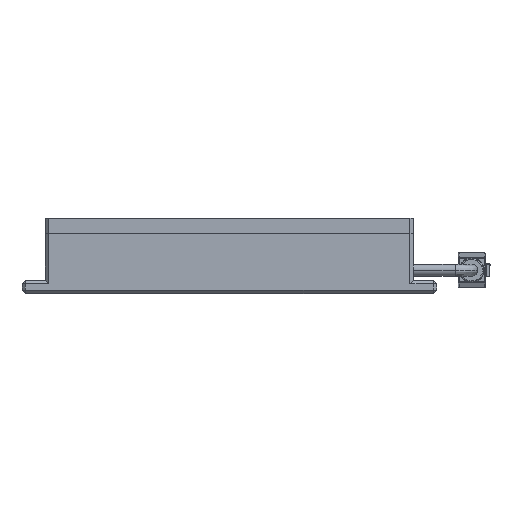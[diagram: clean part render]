
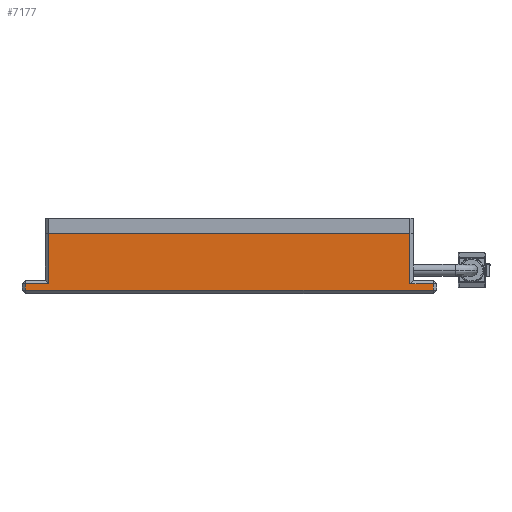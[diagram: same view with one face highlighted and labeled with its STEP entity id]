
A CAD part, left-side view. The second image highlights one B-rep face of the part: STEP entity #7177.
In plain terms, the highlighted planar face has unit normal (-1, 0, 0).
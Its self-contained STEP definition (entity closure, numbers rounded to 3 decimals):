
#174 = DIRECTION ( 'NONE',  ( 0., 0., -1. ) ) ;
#276 = VECTOR ( 'NONE', #174, 1000. ) ;
#362 = LINE ( 'NONE', #6261, #6102 ) ;
#416 = ORIENTED_EDGE ( 'NONE', *, *, #3699, .F. ) ;
#492 = VECTOR ( 'NONE', #5248, 1000. ) ;
#499 = LINE ( 'NONE', #639, #7629 ) ;
#552 = EDGE_CURVE ( 'NONE', #2670, #1925, #6018, .T. ) ;
#608 = VERTEX_POINT ( 'NONE', #2373 ) ;
#639 = CARTESIAN_POINT ( 'NONE',  ( -55., -62., 1. ) ) ;
#714 = CARTESIAN_POINT ( 'NONE',  ( -55., 61., 1. ) ) ;
#1161 = CARTESIAN_POINT ( 'NONE',  ( -55., 61., 0. ) ) ;
#1205 = CARTESIAN_POINT ( 'NONE',  ( -55., -54., 18. ) ) ;
#1209 = VECTOR ( 'NONE', #8080, 1000. ) ;
#1792 = VECTOR ( 'NONE', #2724, 1000. ) ;
#1925 = VERTEX_POINT ( 'NONE', #3850 ) ;
#1930 = EDGE_CURVE ( 'NONE', #4035, #3120, #3726, .T. ) ;
#2013 = LINE ( 'NONE', #7706, #4601 ) ;
#2049 = DIRECTION ( 'NONE',  ( 0., 1., 0. ) ) ;
#2325 = EDGE_CURVE ( 'NONE', #6651, #608, #6110, .T. ) ;
#2373 = CARTESIAN_POINT ( 'NONE',  ( -55., -61., 3. ) ) ;
#2433 = ORIENTED_EDGE ( 'NONE', *, *, #2325, .T. ) ;
#2561 = EDGE_CURVE ( 'NONE', #3283, #7382, #2894, .T. ) ;
#2670 = VERTEX_POINT ( 'NONE', #2904 ) ;
#2724 = DIRECTION ( 'NONE',  ( 0., 0., 1. ) ) ;
#2894 = LINE ( 'NONE', #3449, #1792 ) ;
#2904 = CARTESIAN_POINT ( 'NONE',  ( -55., 54., 18. ) ) ;
#2993 = VECTOR ( 'NONE', #3103, 1000. ) ;
#3103 = DIRECTION ( 'NONE',  ( 0., 0., 1. ) ) ;
#3120 = VERTEX_POINT ( 'NONE', #714 ) ;
#3283 = VERTEX_POINT ( 'NONE', #5920 ) ;
#3311 = ORIENTED_EDGE ( 'NONE', *, *, #7800, .T. ) ;
#3449 = CARTESIAN_POINT ( 'NONE',  ( -55., -54., 18. ) ) ;
#3476 = DIRECTION ( 'NONE',  ( 0., -1., 0. ) ) ;
#3594 = EDGE_CURVE ( 'NONE', #1925, #4035, #362, .T. ) ;
#3611 = AXIS2_PLACEMENT_3D ( 'NONE', #7908, #5187, #4515 ) ;
#3660 = ORIENTED_EDGE ( 'NONE', *, *, #1930, .T. ) ;
#3699 = EDGE_CURVE ( 'NONE', #2670, #7382, #2013, .T. ) ;
#3726 = LINE ( 'NONE', #1161, #492 ) ;
#3850 = CARTESIAN_POINT ( 'NONE',  ( -55., 54., 3. ) ) ;
#3948 = ORIENTED_EDGE ( 'NONE', *, *, #552, .T. ) ;
#4005 = EDGE_CURVE ( 'NONE', #3120, #6651, #499, .T. ) ;
#4032 = CARTESIAN_POINT ( 'NONE',  ( -55., 61., 3. ) ) ;
#4035 = VERTEX_POINT ( 'NONE', #4032 ) ;
#4397 = ORIENTED_EDGE ( 'NONE', *, *, #2561, .T. ) ;
#4453 = CARTESIAN_POINT ( 'NONE',  ( -55., -61., 4. ) ) ;
#4515 = DIRECTION ( 'NONE',  ( 0., 0., -1. ) ) ;
#4601 = VECTOR ( 'NONE', #3476, 1000. ) ;
#5187 = DIRECTION ( 'NONE',  ( 1., 0., 0. ) ) ;
#5248 = DIRECTION ( 'NONE',  ( 0., 0., -1. ) ) ;
#5413 = LINE ( 'NONE', #7357, #1209 ) ;
#5451 = DIRECTION ( 'NONE',  ( 0., -1., 0. ) ) ;
#5920 = CARTESIAN_POINT ( 'NONE',  ( -55., -54., 3. ) ) ;
#6018 = LINE ( 'NONE', #7851, #276 ) ;
#6102 = VECTOR ( 'NONE', #2049, 1000. ) ;
#6110 = LINE ( 'NONE', #4453, #2993 ) ;
#6261 = CARTESIAN_POINT ( 'NONE',  ( -55., -55., 3. ) ) ;
#6651 = VERTEX_POINT ( 'NONE', #8430 ) ;
#7177 = ADVANCED_FACE ( 'NONE', ( #7715 ), #8637, .F. ) ;
#7263 = ORIENTED_EDGE ( 'NONE', *, *, #4005, .T. ) ;
#7357 = CARTESIAN_POINT ( 'NONE',  ( -55., -55., 3. ) ) ;
#7382 = VERTEX_POINT ( 'NONE', #1205 ) ;
#7629 = VECTOR ( 'NONE', #5451, 1000. ) ;
#7706 = CARTESIAN_POINT ( 'NONE',  ( -55., -55., 18. ) ) ;
#7715 = FACE_OUTER_BOUND ( 'NONE', #8797, .T. ) ;
#7800 = EDGE_CURVE ( 'NONE', #608, #3283, #5413, .T. ) ;
#7851 = CARTESIAN_POINT ( 'NONE',  ( -55., 54., 18. ) ) ;
#7908 = CARTESIAN_POINT ( 'NONE',  ( -55., -55., 18. ) ) ;
#8080 = DIRECTION ( 'NONE',  ( 0., 1., 0. ) ) ;
#8137 = ORIENTED_EDGE ( 'NONE', *, *, #3594, .T. ) ;
#8430 = CARTESIAN_POINT ( 'NONE',  ( -55., -61., 1. ) ) ;
#8637 = PLANE ( 'NONE',  #3611 ) ;
#8797 = EDGE_LOOP ( 'NONE', ( #416, #3948, #8137, #3660, #7263, #2433, #3311, #4397 ) ) ;
